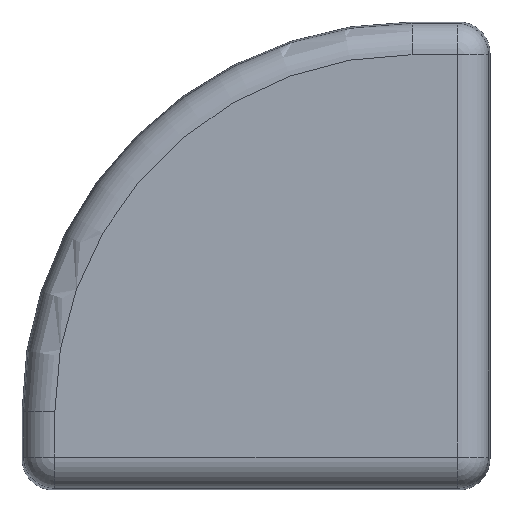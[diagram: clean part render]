
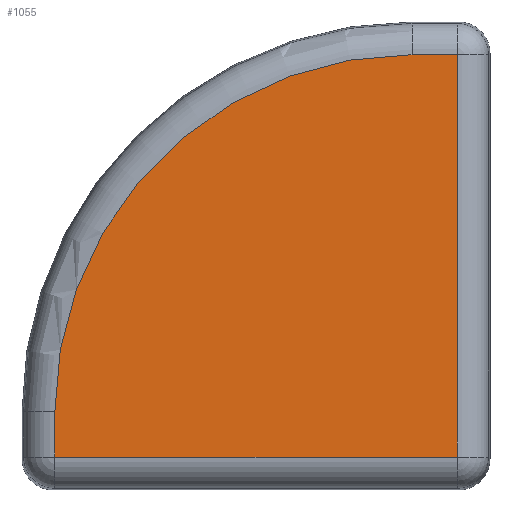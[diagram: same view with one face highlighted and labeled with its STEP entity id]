
A CAD part, top view. The second image highlights one B-rep face of the part: STEP entity #1055.
In plain terms, the highlighted planar face has unit normal (0, 0, 1).
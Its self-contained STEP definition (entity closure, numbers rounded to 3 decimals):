
#74=FACE_OUTER_BOUND('',#137,.T.);
#137=EDGE_LOOP('',(#777,#778,#779,#780,#781));
#222=CIRCLE('',#1172,22.894);
#268=LINE('',#1872,#350);
#269=LINE('',#1874,#351);
#270=LINE('',#1876,#352);
#271=LINE('',#1877,#353);
#350=VECTOR('',#1369,1.);
#351=VECTOR('',#1370,1.);
#352=VECTOR('',#1371,1.);
#353=VECTOR('',#1372,1.);
#482=VERTEX_POINT('',#1868);
#483=VERTEX_POINT('',#1869);
#484=VERTEX_POINT('',#1871);
#485=VERTEX_POINT('',#1873);
#486=VERTEX_POINT('',#1875);
#599=EDGE_CURVE('',#482,#483,#222,.T.);
#600=EDGE_CURVE('',#483,#484,#268,.T.);
#601=EDGE_CURVE('',#484,#485,#269,.T.);
#602=EDGE_CURVE('',#485,#486,#270,.T.);
#603=EDGE_CURVE('',#486,#482,#271,.T.);
#777=ORIENTED_EDGE('',*,*,#599,.T.);
#778=ORIENTED_EDGE('',*,*,#600,.T.);
#779=ORIENTED_EDGE('',*,*,#601,.T.);
#780=ORIENTED_EDGE('',*,*,#602,.T.);
#781=ORIENTED_EDGE('',*,*,#603,.T.);
#1010=PLANE('',#1171);
#1055=ADVANCED_FACE('',(#74),#1010,.F.);
#1171=AXIS2_PLACEMENT_3D('',#1867,#1365,#1366);
#1172=AXIS2_PLACEMENT_3D('',#1870,#1367,#1368);
#1365=DIRECTION('center_axis',(0.,0.,-1.));
#1366=DIRECTION('ref_axis',(0.,1.,0.));
#1367=DIRECTION('center_axis',(0.,0.,1.));
#1368=DIRECTION('ref_axis',(1.,0.,0.));
#1369=DIRECTION('',(0.,-1.,0.));
#1370=DIRECTION('',(1.,0.,0.));
#1371=DIRECTION('',(0.,1.,0.));
#1372=DIRECTION('',(-1.,0.,0.));
#1867=CARTESIAN_POINT('Origin',(-55.433,-24.606,5.));
#1868=CARTESIAN_POINT('',(-25.433,-11.712,5.));
#1869=CARTESIAN_POINT('',(-48.327,-34.606,5.));
#1870=CARTESIAN_POINT('Origin',(-25.433,-34.606,5.));
#1871=CARTESIAN_POINT('',(-48.327,-37.5,5.));
#1872=CARTESIAN_POINT('',(-48.327,-24.606,5.));
#1873=CARTESIAN_POINT('',(-22.539,-37.5,5.));
#1874=CARTESIAN_POINT('',(-55.433,-37.5,5.));
#1875=CARTESIAN_POINT('',(-22.539,-11.712,5.));
#1876=CARTESIAN_POINT('',(-22.539,-24.606,5.));
#1877=CARTESIAN_POINT('',(-55.433,-11.712,5.));
